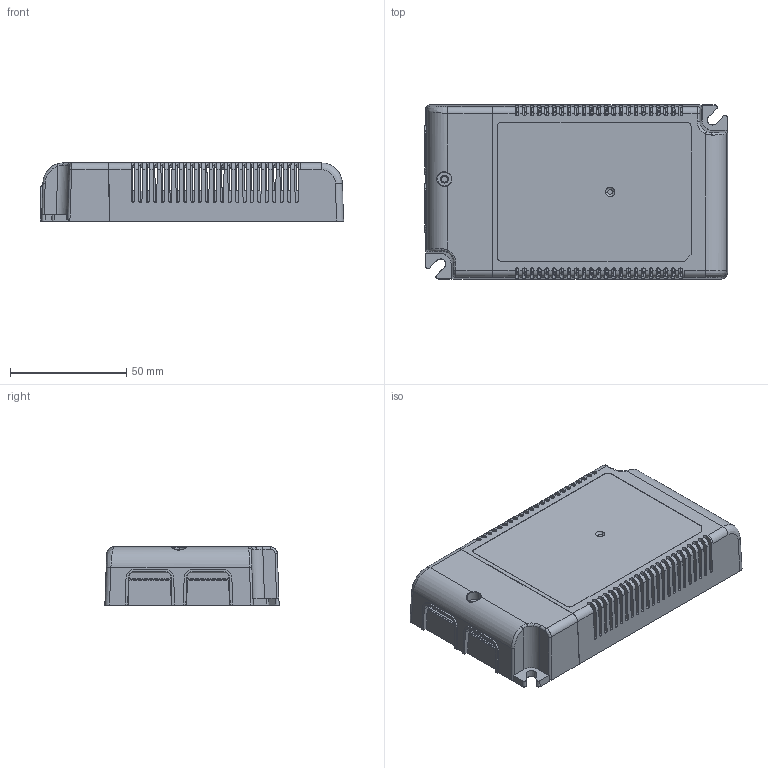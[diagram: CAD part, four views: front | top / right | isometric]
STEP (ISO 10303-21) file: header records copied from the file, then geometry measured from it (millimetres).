
FILE_DESCRIPTION(('Creo Elements/Direct Modeling STEP Export'),'2;1');
FILE_NAME('IDLC-65(150924).stp','2016-10-17T14:37:46',(''),(''),'PTC Creo Elements/Direct Modeling STEP processor for AP214 (Solid Model)','PTC Creo Elements/Direct Modeling 19.0 09-May-2014 (C) Parametric Technology GmbH','');
FILE_SCHEMA(('AUTOMOTIVE_DESIGN { 1 0 10303 214 1 1 1 1 }'));
Length unit declared in the file: millimetre
Products named in the file (7): A-1_5_PRT_PRT.PRT; A-2_8_PRT.PRT; 65-A2_8_PRT.PRT; 65-A1_2_PRT.PRT; 65_ASM_5_ASM.ASM; 65-8_14_STP.ASM; IDLC-65_150924_.stp
Assembly tree (6 placements, depth 4):
  IDLC-65_150924_.stp
    65-8_14_STP.ASM
      65_ASM_5_ASM.ASM
        65-A1_2_PRT.PRT
        65-A2_8_PRT.PRT
        A-2_8_PRT.PRT
        A-1_5_PRT_PRT.PRT
Bounding box: 130.5 x 75 x 25 mm (x, y, z)
Volume: 54228.7 mm3; surface area: 69044 mm2
Topology: 4 solids, 4 shells, 1701 faces, 5313 edges, 3545 vertices
Faces by surface type: plane 1124, cylinder 508, cone 36, torus 17, bspline 16
Entity records: 69906 total; most frequent: CARTESIAN_POINT 16232, ORIENTED_EDGE 10626, DIRECTION 8960, EDGE_CURVE 5313, VECTOR 3804, LINE 3804, VERTEX_POINT 3545, AXIS2_PLACEMENT_3D 2578
